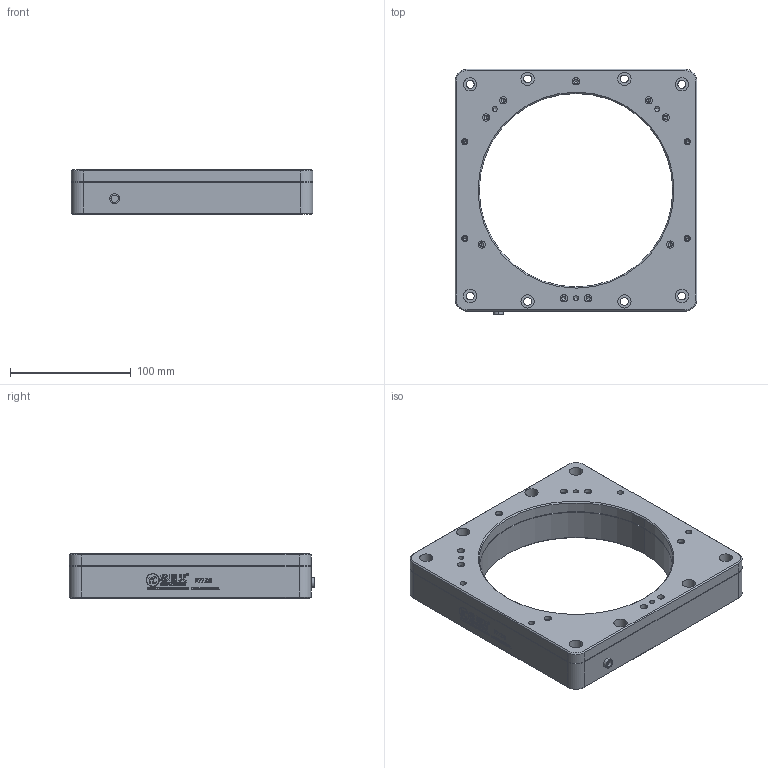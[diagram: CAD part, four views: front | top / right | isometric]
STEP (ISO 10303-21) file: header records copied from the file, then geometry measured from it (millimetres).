
FILE_DESCRIPTION (( 'STEP AP203' ), '1' );
FILE_NAME ('P77-D3.STEP', '2020-01-07T08:33:32', ( 'User' ), ( 'china' ), 'SwSTEP 2.0', 'SolidWorks 2016', '' );
FILE_SCHEMA (( 'CONFIG_CONTROL_DESIGN' ));
Length unit declared in the file: millimetre
Products named in the file (1): P77-D3
Bounding box: 200.02 x 203 x 37 mm (x, y, z)
Volume: 693551.4 mm3; surface area: 134424.3 mm2
Topology: 2 solids, 2 shells, 1114 faces, 2982 edges, 1962 vertices
Faces by surface type: plane 531, bspline 392, cylinder 147, cone 44
Entity records: 46737 total; most frequent: CARTESIAN_POINT 21227, ORIENTED_EDGE 5900, DIRECTION 3940, EDGE_CURVE 2950, VERTEX_POINT 1962, LINE 1838, VECTOR 1838, EDGE_LOOP 1304
